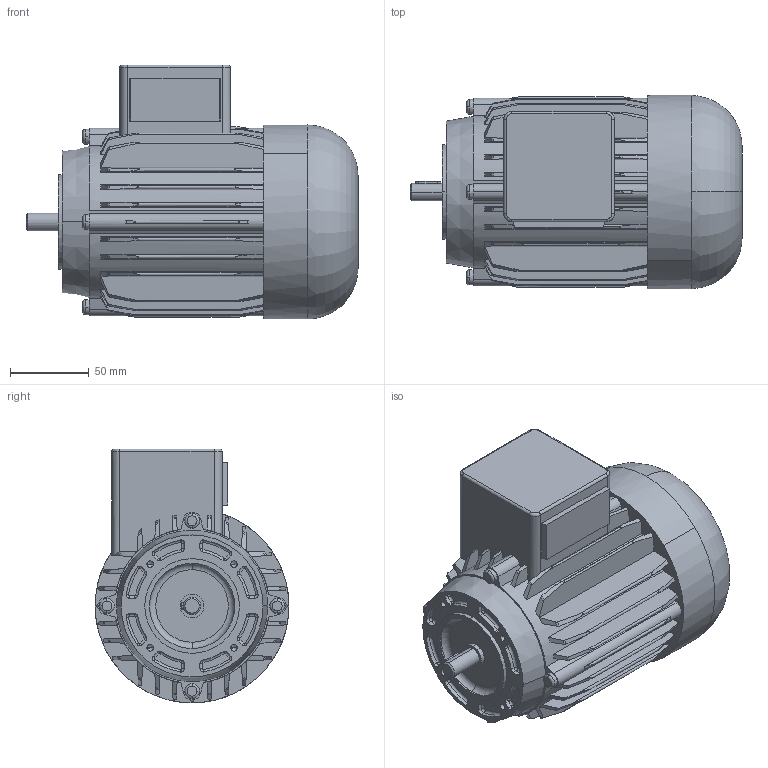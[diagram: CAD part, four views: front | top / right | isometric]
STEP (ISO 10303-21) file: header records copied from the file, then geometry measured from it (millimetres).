
FILE_DESCRIPTION(('OneSpaceDesigner STEP Export'),'2;1');
FILE_NAME('OD6_B14_FT75.stp','2008-04-24T11:30:15',(''),(''),'OneSpace Designer STEP processor (Jan. 2003) for AP214(CD)(Solid Model)','OneSpace Designer 12.01D 09-Jul-2004 (C) CoCreate Software GmbH','');
FILE_SCHEMA(('AUTOMOTIVE_DESIGN_CC2 {1 2 10303 214 -1 1 5 1}'));
Length unit declared in the file: millimetre
Products named in the file (2): OD6_B14_FT75
Assembly tree (1 placements, depth 2):
  OD6_B14_FT75
    OD6_B14_FT75
Bounding box: 210.5 x 122.9 x 161 mm (x, y, z)
Volume: 1973243.6 mm3; surface area: 152182.7 mm2
Topology: 1 solids, 1 shells, 495 faces, 1328 edges, 857 vertices
Faces by surface type: cylinder 180, plane 135, torus 100, cone 80
Entity records: 29967 total; most frequent: CARTESIAN_POINT 18755, ORIENTED_EDGE 2640, DIRECTION 2011, EDGE_CURVE 1320, VERTEX_POINT 857, AXIS2_PLACEMENT_3D 779, EDGE_LOOP 525, FACE_OUTER_BOUND 495
